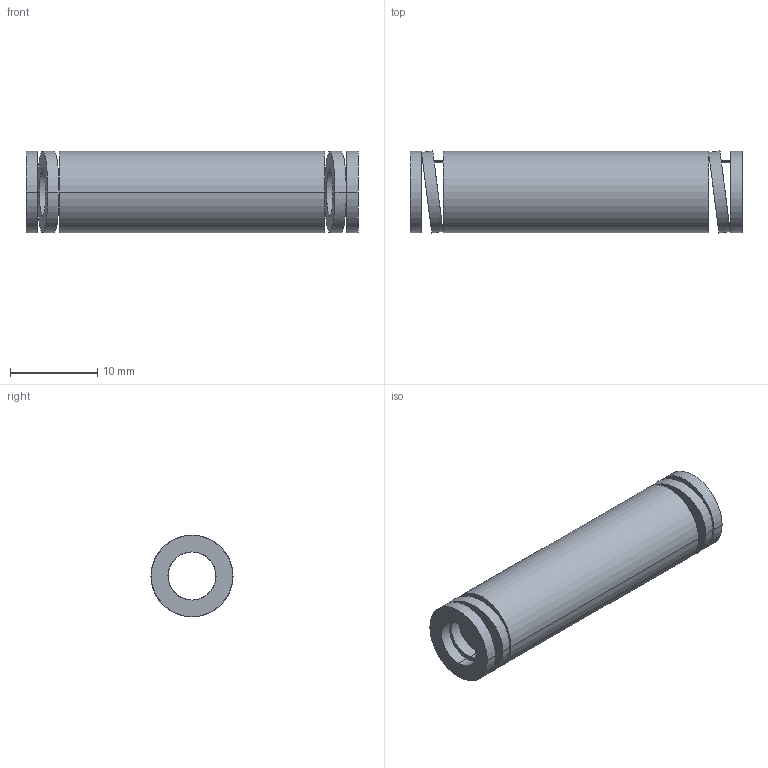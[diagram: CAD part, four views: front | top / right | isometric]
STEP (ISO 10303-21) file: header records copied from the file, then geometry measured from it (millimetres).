
FILE_DESCRIPTION(('CATIA V5 STEP Exchange'),'2;1');
FILE_NAME('C:\Users\Utente\Desktop\IO LAVORO\3D X SITO CF\X SITO\3D files 392B\392-B10-038.stp','2021-08-12T13:02:31+00:00',('none'),('none'),'CATIA Version 5 Release 20 GA (IN-10)','CATIA V5 STEP AP203','none');
FILE_SCHEMA(('CONFIG_CONTROL_DESIGN'));
Length unit declared in the file: millimetre
Products named in the file (1): 392-B10-038
Bounding box: 38 x 9.39 x 9.3 mm (x, y, z)
Volume: 1569.6 mm3; surface area: 2095.2 mm2
Topology: 1 solids, 1 shells, 38 faces, 92 edges, 64 vertices
Faces by surface type: cylinder 28, plane 10
Entity records: 1548 total; most frequent: CARTESIAN_POINT 659, ORIENTED_EDGE 184, DIRECTION 129, EDGE_CURVE 92, AXIS2_PLACEMENT_3D 64, VERTEX_POINT 64, EDGE_LOOP 56, B_SPLINE_CURVE_WITH_KNOTS 39
